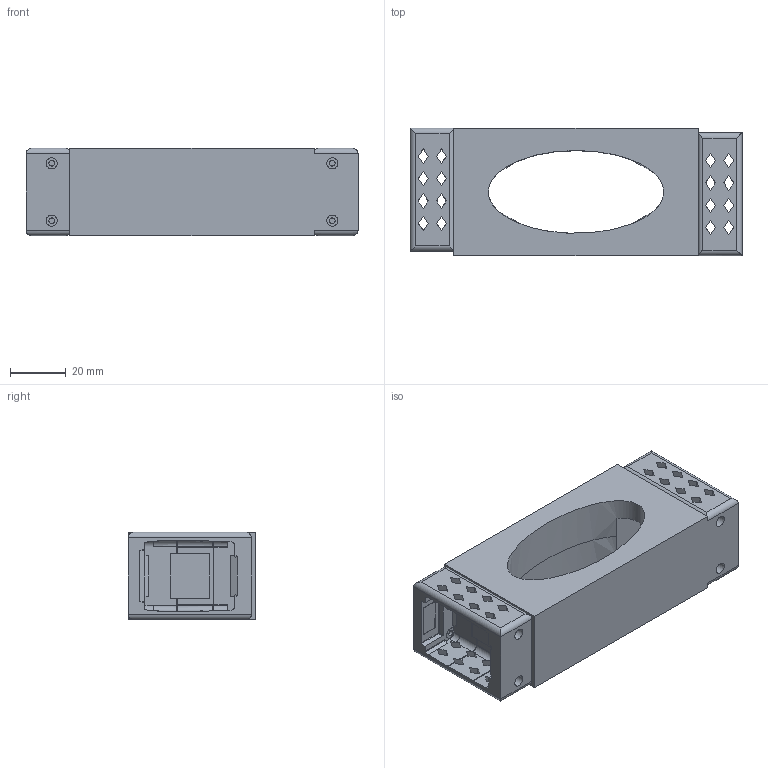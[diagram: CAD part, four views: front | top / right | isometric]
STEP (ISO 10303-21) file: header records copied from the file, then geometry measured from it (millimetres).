
FILE_DESCRIPTION(('Open CASCADE Model'),'2;1');
FILE_NAME('Open CASCADE Shape Model','2026-09-12T11:56:22',('Author'),( 'Open CASCADE'),'Open CASCADE STEP processor 7.9','Open CASCADE 7.9' ,'Unknown');
FILE_SCHEMA(('AUTOMOTIVE_DESIGN { 1 0 10303 214 1 1 1 1 }'));
Length unit declared in the file: millimetre
Products named in the file (2): =>[0:1:1:2]; V2_1_replacement_lower_leg_two_ST3215_sockets
Assembly tree (1 placements, depth 2):
  =>[0:1:1:2]
    V2_1_replacement_lower_leg_two_ST3215_sockets
Bounding box: 118.67 x 45.6 x 31.22 mm (x, y, z)
Volume: 90289.7 mm3; surface area: 28717.7 mm2
Topology: 1 solids, 1 shells, 540 faces, 1610 edges, 1056 vertices
Faces by surface type: plane 388, cylinder 134, bspline 12, sphere 4, extrusion 2
Full cylindrical faces by diameter (mm): 2 x8, 4 x8
Entity records: 41717 total; most frequent: CARTESIAN_POINT 12310, DIRECTION 4640, ORIENTED_EDGE 3212, PCURVE 3212, DEFINITIONAL_REPRESENTATION 3212, VECTOR 2710, LINE 2708, EDGE_CURVE 1606
